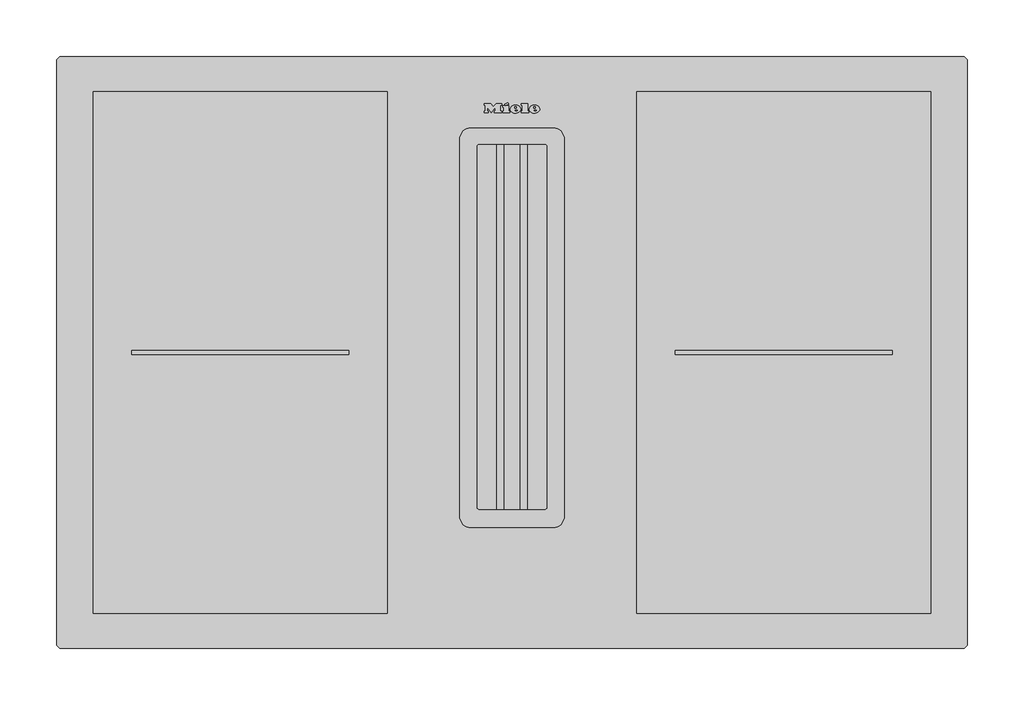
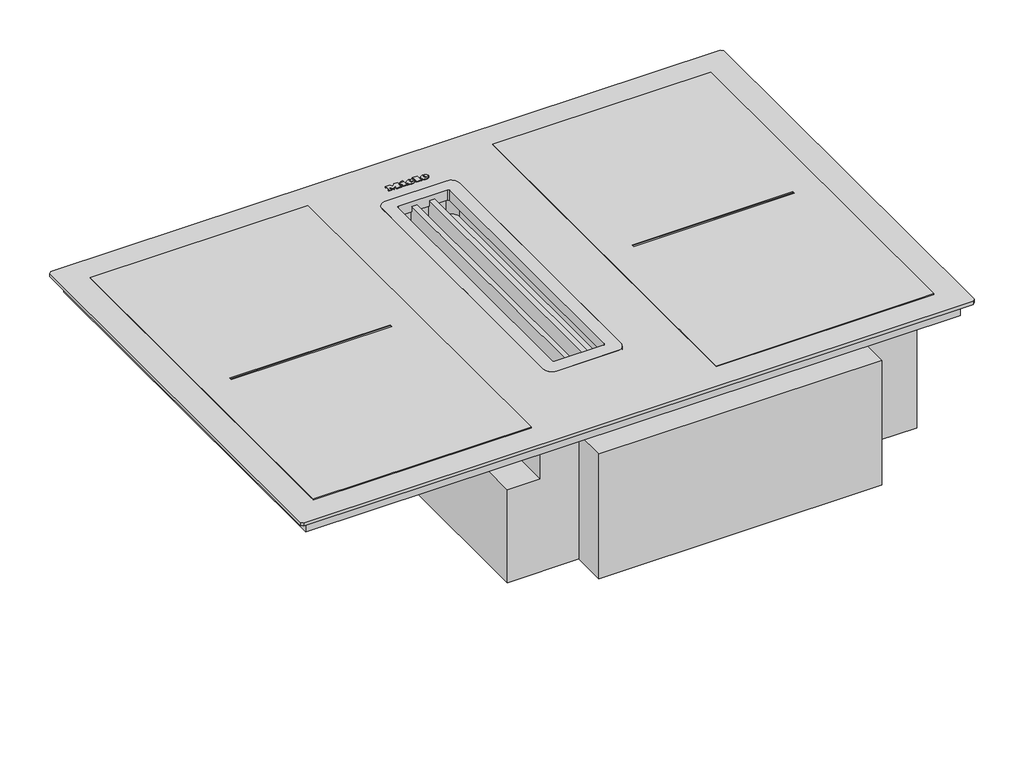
# Not in any storey: 1 proxy.
"""IFC4 building model written with IfcOpenShell, lengths in millimetres."""

import ifcopenshell
import ifcopenshell.guid

model = None  # the IFC model being written
_history = None  # IfcOwnerHistory: only IFC2X3 demands one
_inside = {}  # id of a spatial element -> (the spatial element, [elements in it])
_under = {}  # id of a project, library or spatial element -> (it, [spatial elements below it])
_declared = {}  # id of a project -> (the project, [libraries it declares])
_typed = {}  # id of a type object -> (the type object, [elements of that type])
_made_of = {}  # id of a material, layer set ... -> (it, [elements and type objects made of it])


def new_model(schema):
    """Start an empty IFC model of exactly this schema.

    Asked for "IFC4X3", IfcOpenShell would pick the latest addendum, in which some entities
    have other attributes; the version numbers below select the first issue.
    IFC2X3 requires an IfcOwnerHistory on every rooted entity: one is made here for all.
    """
    global model, _history
    if schema == "IFC4X3":
        model = ifcopenshell.file(schema_version=(4, 3, 0, 0))
    else:
        model = ifcopenshell.file(schema=schema)
    _inside.clear()
    _under.clear()
    _declared.clear()
    _typed.clear()
    _made_of.clear()
    _history = None
    if model.schema == "IFC2X3":
        org = make("IfcOrganization", Name="unknown")
        user = make(
            "IfcPersonAndOrganization",
            ThePerson=make("IfcPerson", FamilyName="unknown"),
            TheOrganization=org,
        )
        app = make(
            "IfcApplication",
            ApplicationDeveloper=org,
            Version="unknown",
            ApplicationFullName="unknown",
            ApplicationIdentifier="unknown",
        )
        _history = make(
            "IfcOwnerHistory",
            OwningUser=user,
            OwningApplication=app,
            ChangeAction="ADDED",
            CreationDate=0,
        )
    return model


def make(cls, **values):
    """One entity of the class cls with the attributes given. An attribute that is None is left unset."""
    return model.create_entity(
        cls, **{name: value for name, value in values.items() if value is not None}
    )


def rooted(cls, **values):
    """An entity with a GlobalId (a new one), such as an element, a storey or a relation."""
    return make(cls, GlobalId=ifcopenshell.guid.new(), OwnerHistory=_history, **values)


def si_unit(unit_type, name, prefix=None):
    """IfcSIUnit, for example si_unit("LENGTHUNIT", "METRE", prefix="MILLI")."""
    return make("IfcSIUnit", UnitType=unit_type, Prefix=prefix, Name=name)


def assignment(units):
    """IfcUnitAssignment: the units of a project."""
    return None if units is None else make("IfcUnitAssignment", Units=units)


def point(xyz):
    """IfcCartesianPoint."""
    return None if xyz is None else make("IfcCartesianPoint", Coordinates=xyz)


def direction(xyz):
    """IfcDirection."""
    return None if xyz is None else make("IfcDirection", DirectionRatios=xyz)


def frame(location, z_axis=None, x_axis=None):
    """IfcAxis2Placement3D, a coordinate frame: its origin and axes. An axis left out is left unset."""
    return make(
        "IfcAxis2Placement3D",
        Location=point(location),
        Axis=direction(z_axis),
        RefDirection=direction(x_axis),
    )


def frame_2d(location, x_axis=None):
    """IfcAxis2Placement2D, a coordinate frame in the plane: its origin and x axis."""
    return make(
        "IfcAxis2Placement2D", Location=point(location), RefDirection=direction(x_axis)
    )


def origin():
    """The frame at (0, 0, 0) with its axes left unset."""
    return frame((0.0, 0.0, 0.0))


def origin_with_axes():
    """The frame at (0, 0, 0) with the z axis (0, 0, 1) and the x axis (1, 0, 0) written out."""
    return frame((0.0, 0.0, 0.0), z_axis=(0.0, 0.0, 1.0), x_axis=(1.0, 0.0, 0.0))


def place(relative_to, where):
    """IfcLocalPlacement: puts the frame where relative to a parent placement (None: the world)."""
    return make(
        "IfcLocalPlacement", PlacementRelTo=relative_to, RelativePlacement=where
    )


def context(
    kind, dimensions, precision=None, world=None, true_north=None, identifier=None
):
    """IfcGeometricRepresentationContext, for example the 3D "Model" context."""
    return make(
        "IfcGeometricRepresentationContext",
        ContextIdentifier=identifier,
        ContextType=kind,
        CoordinateSpaceDimension=dimensions,
        Precision=precision,
        WorldCoordinateSystem=world,
        TrueNorth=true_north,
    )


def project(units=None, contexts=None):
    """IfcProject with its units and contexts."""
    return rooted(
        "IfcProject",
        Name="project",
        RepresentationContexts=contexts,
        UnitsInContext=assignment(units),
    )


def spatial(cls, under=None, at=None, **own):
    """A site, building, storey or space (cls), placed at a placement, below another one or the project."""
    s = rooted(cls, ObjectPlacement=at, **own)
    if under is not None:
        _under.setdefault(under.id(), (under, []))[1].append(s)
    return s


def polyline(points):
    """IfcPolyline through the points."""
    return make("IfcPolyline", Points=[point(p) for p in points])


def circle_curve(where, radius):
    """IfcCircle in the frame where."""
    return make("IfcCircle", Position=where, Radius=radius)


def ellipse_curve(where, semi_axis1, semi_axis2):
    """IfcEllipse in the frame where."""
    return make(
        "IfcEllipse", Position=where, SemiAxis1=semi_axis1, SemiAxis2=semi_axis2
    )


def trimmed(basis, trim1, trim2, sense, master):
    """IfcTrimmedCurve: the piece of a basis curve between two trims."""
    return make(
        "IfcTrimmedCurve",
        BasisCurve=basis,
        Trim1=trim1,
        Trim2=trim2,
        SenseAgreement=sense,
        MasterRepresentation=master,
    )


def segment(curve, same_sense, transition):
    """IfcCompositeCurveSegment."""
    return make(
        "IfcCompositeCurveSegment",
        Transition=transition,
        SameSense=same_sense,
        ParentCurve=curve,
    )


def composite_curve(segments, self_intersect=None):
    """IfcCompositeCurve: segments joined end to end."""
    return make("IfcCompositeCurve", Segments=segments, SelfIntersect=self_intersect)


def outline(outer, holes=None, kind="AREA"):
    """IfcArbitraryClosedProfileDef: a profile drawn as a closed curve; with holes, ...WithVoids."""
    if holes is None:
        return make("IfcArbitraryClosedProfileDef", ProfileType=kind, OuterCurve=outer)
    return make(
        "IfcArbitraryProfileDefWithVoids",
        ProfileType=kind,
        OuterCurve=outer,
        InnerCurves=holes,
    )


def extrude(swept, where, along, depth):
    """IfcExtrudedAreaSolid: the profile swept, set in the frame where, extruded along a direction by depth."""
    return make(
        "IfcExtrudedAreaSolid",
        SweptArea=swept,
        Position=where,
        ExtrudedDirection=direction(along),
        Depth=depth,
    )


def shape(context_of_items, identifier, shape_type, items):
    """IfcShapeRepresentation: the items that make up one representation, for example the "Body"."""
    return make(
        "IfcShapeRepresentation",
        ContextOfItems=context_of_items,
        RepresentationIdentifier=identifier,
        RepresentationType=shape_type,
        Items=items,
    )


def source(mapping_origin, context_of_items, identifier, shape_type, items):
    """IfcRepresentationMap: a shape defined once, which mapped items show again and again."""
    return make(
        "IfcRepresentationMap",
        MappingOrigin=mapping_origin,
        MappedRepresentation=shape(context_of_items, identifier, shape_type, items),
    )


def transform(
    local_origin,
    x_axis=None,
    y_axis=None,
    z_axis=None,
    scale=None,
    scale2=None,
    scale3=None,
    uniform=True,
):
    """IfcCartesianTransformationOperator3D, or its non-uniform kind. x_axis, y_axis, z_axis: its Axis1, 2, 3."""
    if uniform:
        return make(
            "IfcCartesianTransformationOperator3D",
            Axis1=direction(x_axis),
            Axis2=direction(y_axis),
            LocalOrigin=point(local_origin),
            Scale=scale,
            Axis3=direction(z_axis),
        )
    return make(
        "IfcCartesianTransformationOperator3DnonUniform",
        Axis1=direction(x_axis),
        Axis2=direction(y_axis),
        LocalOrigin=point(local_origin),
        Scale=scale,
        Axis3=direction(z_axis),
        Scale2=scale2,
        Scale3=scale3,
    )


def mapped(mapping_source, mapping_target):
    """IfcMappedItem: shows the shape of a source again, moved by a transform."""
    return make(
        "IfcMappedItem", MappingSource=mapping_source, MappingTarget=mapping_target
    )


def made_of(thing, what):
    """Note that an element or type object is made of a material, layer set ...; save() writes the relation."""
    if what is not None:
        _made_of.setdefault(what.id(), (what, []))[1].append(thing)
    return thing


def element(
    cls,
    number,
    at=None,
    inside=None,
    cuts=None,
    type_object=None,
    material=None,
    context=None,
    identifier="Body",
    shape_type=None,
    held_by="IfcProductDefinitionShape",
    body=None,
    shapes=None,
    **own,
):
    """One element of the class cls, such as IfcWall. Its Tag is "e" and its number.

    at: its placement. inside: the storey or other place that contains it. cuts: it is an
    opening in that element (IfcRelVoidsElement). A single representation is given by context,
    identifier, shape_type and body (its items); several are given by shapes. held_by: the class
    of the entity that holds the representations. save() writes the other relations.
    """
    e = rooted(cls, Tag="e%d" % number, ObjectPlacement=at, **own)
    if body is not None:
        shapes = [shape(context, identifier, shape_type, body)]
    if shapes is not None:
        e.Representation = make(held_by, Representations=shapes)
    if inside is not None:
        _inside.setdefault(inside.id(), (inside, []))[1].append(e)
    if cuts is not None:
        rooted(
            "IfcRelVoidsElement", RelatingBuildingElement=cuts, RelatedOpeningElement=e
        )
    if type_object is not None:
        _typed.setdefault(type_object.id(), (type_object, []))[1].append(e)
    return made_of(e, material)


def aggregate(whole, parts):
    """IfcRelAggregates: a whole, such as a stair, and the parts it consists of."""
    return rooted("IfcRelAggregates", RelatingObject=whole, RelatedObjects=parts)


def save(model, path):
    """Write the relations noted so far, then the file.

    IfcRelAggregates (storeys below a building ...), IfcRelContainedInSpatialStructure (elements
    in a storey), IfcRelDefinesByType, IfcRelAssociatesMaterial and IfcRelDeclares: one each for
    every whole, place, type object, material and project.
    """
    for whole, parts in _under.values():
        aggregate(whole, parts)
    for where, things in _inside.values():
        rooted(
            "IfcRelContainedInSpatialStructure",
            RelatedElements=things,
            RelatingStructure=where,
        )
    for kind, things in _typed.values():
        rooted("IfcRelDefinesByType", RelatedObjects=things, RelatingType=kind)
    for what, things in _made_of.values():
        rooted("IfcRelAssociatesMaterial", RelatedObjects=things, RelatingMaterial=what)
    for by, libraries in _declared.values():
        rooted("IfcRelDeclares", RelatingContext=by, RelatedDefinitions=libraries)
    model.write(path)


def plane_surface(at):
    """IfcPlane: the flat surface through the origin of the frame at, square to its z axis."""
    return make("IfcPlane", Position=at)


def cylinder_surface(at, radius):
    """IfcCylindricalSurface: all points at the distance radius from the z axis of the frame at."""
    return make("IfcCylindricalSurface", Position=at, Radius=radius)


def revolved_surface(curve, axis_point, axis_direction):
    """IfcSurfaceOfRevolution: the curve turned about the line through axis_point along axis_direction."""
    return make(
        "IfcSurfaceOfRevolution",
        SweptCurve=make("IfcArbitraryOpenProfileDef", ProfileType="CURVE", Curve=curve),
        AxisPosition=make("IfcAxis1Placement", Location=point(axis_point), Axis=direction(axis_direction)),
    )


def extruded_surface(curve, direction_of_extrusion, depth):
    """IfcSurfaceOfLinearExtrusion: the curve pushed along a direction by depth."""
    return make(
        "IfcSurfaceOfLinearExtrusion",
        SweptCurve=make("IfcArbitraryOpenProfileDef", ProfileType="CURVE", Curve=curve),
        ExtrudedDirection=direction(direction_of_extrusion),
        Depth=depth,
    )


def advanced_brep(points, edges, surfaces, faces):
    """IfcAdvancedBrep: a solid bounded by faces that lie on surfaces and meet in shared edges.

    An edge is (start, end): straight between two places in points (the first is 0);
    or (start, end, curve); or (start, end, curve, False) where it runs against its curve.
    A face is (place in surfaces, loops), or (place, loops, False) where it looks against
    its surface's normal. A loop lists edges by number (the first is 1), with a minus sign
    where the edge is run from its end to its start. The first loop is the outer one.
    """
    corners = [point(p) for p in points]
    vertices = [make("IfcVertexPoint", VertexGeometry=c) for c in corners]
    made = []
    for start, end, *more in edges:
        made.append(
            make(
                "IfcEdgeCurve",
                EdgeStart=vertices[start],
                EdgeEnd=vertices[end],
                EdgeGeometry=more[0] if more else make("IfcPolyline", Points=[corners[start], corners[end]]),
                SameSense=more[1] if len(more) > 1 else True,
            )
        )
    hull = []
    for where, loops, *sense in faces:
        bounds = []
        for j, loop in enumerate(loops):
            ring = [make("IfcOrientedEdge", EdgeElement=made[abs(k) - 1], Orientation=k > 0) for k in loop]
            bounds.append(
                make(
                    "IfcFaceOuterBound" if j == 0 else "IfcFaceBound",
                    Bound=make("IfcEdgeLoop", EdgeList=ring),
                    Orientation=True,
                )
            )
        hull.append(make("IfcAdvancedFace", Bounds=bounds, FaceSurface=surfaces[where], SameSense=sense[0] if sense else True))
    return make("IfcAdvancedBrep", Outer=make("IfcClosedShell", CfsFaces=hull))


def specialty_equipment_c7f275ff(model_context):
    return source(origin(), model_context, "Body", "SolidModel", [
        advanced_brep(
        [(19.088016, 472.896, 5.0), (19.088016, 473.704, 5.0), (24.440016, 473.704, 5.0), (15.128016, 473.704, 5.0), (17.328016, 471.0, 5.0), (24.304016, 472.896, 5.0), (21.888016, 472.896, 5.0), (19.984016, 472.0, 5.0), (19.088016, 474.728, 5.0), (19.088016, 475.6, 5.0), (20.456016, 475.6, 5.0), (20.456016, 474.728, 5.0), (19.088016, 472.896, 4.0), (19.984016, 472.0, 4.0), (21.888016, 472.896, 4.0), (24.304016, 472.896, 4.0), (17.328016, 471.0, 4.0), (15.128016, 473.704, 4.0), (24.440016, 473.704, 4.0), (19.088016, 473.704, 4.0), (19.088016, 474.728, 4.0), (20.456016, 474.728, 4.0), (20.456016, 475.6, 4.0), (19.088016, 475.6, 4.0)],
        [
            (0, 1),
            (1, 2),
            (2, 3, ellipse_curve(frame((19.784016, 473.704, 5.0), z_axis=(0.0, 0.0, 1.0), x_axis=(-1.0, 0.0, 0.0)), 4.656, 3.848)),
            (3, 4, circle_curve(frame((18.2240596, 473.976, 5.0), z_axis=(0.0, 0.0, 1.0), x_axis=(0.0, -1.0, 0.0)), 3.1079688)),
            (4, 5, circle_curve(frame((19.6908096, 476.088, 5.0), z_axis=(0.0, 0.0, 1.0), x_axis=(0.0, -1.0, 0.0)), 5.6098607)),
            (5, 6),
            (6, 7, circle_curve(frame((20.3750748, 473.64, 5.0), z_axis=(0.0, 0.0, -1.0), x_axis=(0.0, -1.0, 0.0)), 1.6859795)),
            (7, 0, circle_curve(frame((19.984016, 472.896, 5.0), z_axis=(0.0, 0.0, -1.0), x_axis=(0.0, -1.0, 0.0)), 0.896)),
            (8, 9),
            (9, 10, circle_curve(frame((19.772016, 475.6, 5.0), z_axis=(0.0, 0.0, -1.0), x_axis=(0.0, -1.0, 0.0)), 0.684)),
            (10, 11),
            (11, 8),
            (12, 13, circle_curve(frame((19.984016, 472.896, 4.0), z_axis=(0.0, 0.0, 1.0), x_axis=(0.0, -1.0, 0.0)), 0.896)),
            (13, 14, circle_curve(frame((20.3750748, 473.64, 4.0), z_axis=(0.0, 0.0, 1.0), x_axis=(0.0, -1.0, 0.0)), 1.6859795)),
            (14, 15),
            (15, 16, circle_curve(frame((19.6908096, 476.088, 4.0), z_axis=(0.0, 0.0, -1.0), x_axis=(0.0, -1.0, 0.0)), 5.6098607)),
            (16, 17, circle_curve(frame((18.2240596, 473.976, 4.0), z_axis=(0.0, 0.0, -1.0), x_axis=(0.0, -1.0, 0.0)), 3.1079688)),
            (17, 18, ellipse_curve(frame((19.784016, 473.704, 4.0), z_axis=(0.0, 0.0, -1.0), x_axis=(-1.0, 0.0, 0.0)), 4.656, 3.848)),
            (18, 19),
            (19, 12),
            (20, 21),
            (21, 22),
            (22, 23, circle_curve(frame((19.772016, 475.6, 4.0), z_axis=(0.0, 0.0, 1.0), x_axis=(0.0, -1.0, 0.0)), 0.684)),
            (23, 20),
            (0, 12),
            (19, 1),
            (18, 2),
            (5, 15),
            (14, 6),
            (17, 3),
            (13, 7),
            (16, 4),
            (8, 20),
            (23, 9),
            (22, 10),
            (21, 11),
        ],
        [
            plane_surface(frame((19.088016, 473.704, 5.0), z_axis=(0.0, 0.0, 1.0), x_axis=(0.0, 1.0, 0.0))),
            plane_surface(frame((19.088016, 473.704, 4.0), z_axis=(0.0, 0.0, -1.0), x_axis=(0.0, -1.0, 0.0))),
            plane_surface(frame((19.088016, 472.896, 5.0), z_axis=(1.0, 0.0, 0.0), x_axis=(0.0, 0.0, -1.0))),
            plane_surface(frame((19.088016, 473.704, 5.0), z_axis=(0.0, -1.0, 0.0), x_axis=(0.0, 0.0, -1.0))),
            plane_surface(frame((24.304016, 472.896, 5.0), z_axis=(0.0, 1.0, 0.0), x_axis=(0.0, 0.0, -1.0))),
            extruded_surface(trimmed(ellipse_curve(frame((19.784016, 473.704, 3.0), z_axis=(0.0, 0.0, 1.0), x_axis=(-1.0, 0.0, 0.0)), 4.656, 3.848), [point((24.440016, 473.704, 3.0))], [point((15.128016, 473.704, 3.0))], True, "CARTESIAN"), (0.0, 0.0, 1.0), 1.0),
            revolved_surface(polyline([(20.3750748, 471.9540205, 4.0), (20.3750748, 471.9540205, 5.0)]), (20.3750748, 473.64, 4.0), (0.0, 0.0, -1.0)),
            revolved_surface(polyline([(19.984016, 472.0, 4.0), (19.984016, 472.0, 5.0)]), (19.984016, 472.896, 4.0), (0.0, 0.0, -1.0)),
            cylinder_surface(frame((18.2240596, 473.976, 4.0), z_axis=(0.0, 0.0, 1.0), x_axis=(0.0, -1.0, 0.0)), 3.1079688),
            cylinder_surface(frame((19.6908096, 476.088, 4.0), z_axis=(0.0, 0.0, 1.0), x_axis=(0.0, -1.0, 0.0)), 5.6098607),
            plane_surface(frame((19.088016, 474.728, 5.0), z_axis=(1.0, 0.0, 0.0), x_axis=(0.0, 0.0, -1.0))),
            revolved_surface(polyline([(19.772016, 474.916, 4.0), (19.772016, 474.916, 5.0)]), (19.772016, 475.6, 4.0), (0.0, 0.0, -1.0)),
            plane_surface(frame((20.456016, 475.6, 5.0), z_axis=(-1.0, 0.0, 0.0), x_axis=(0.0, 0.0, -1.0))),
            plane_surface(frame((20.456016, 474.728, 5.0), z_axis=(0.0, 1.0, 0.0), x_axis=(0.0, 0.0, -1.0))),
        ],
        [
            (0, [[1, 2, 3, 4, 5, 6, 7, 8], [9, 10, 11, 12]]),
            (1, [[13, 14, 15, 16, 17, 18, 19, 20], [21, 22, 23, 24]]),
            (2, [[-1, 25, -20, 26]]),
            (3, [[-2, -26, -19, 27]]),
            (4, [[-6, 28, -15, 29]]),
            (5, [[-3, -27, -18, 30]]),
            (6, [[-7, -29, -14, 31]]),
            (7, [[-8, -31, -13, -25]]),
            (8, [[-4, -30, -17, 32]]),
            (9, [[-5, -32, -16, -28]]),
            (10, [[-9, 33, -24, 34]]),
            (11, [[-10, -34, -23, 35]]),
            (12, [[-11, -35, -22, 36]]),
            (13, [[-12, -36, -21, -33]]),
        ],
    ),
        advanced_brep(
        [(2.392016, 472.896, 5.0), (2.392016, 473.704, 5.0), (7.744016, 473.704, 5.0), (-1.567984, 473.704, 5.0), (0.632016, 471.0, 5.0), (7.608016, 472.896, 5.0), (5.192016, 472.896, 5.0), (3.288016, 472.0, 5.0), (2.392016, 474.728, 5.0), (2.392016, 475.6, 5.0), (3.760016, 475.6, 5.0), (3.760016, 474.728, 5.0), (2.392016, 472.896, 4.0), (3.288016, 472.0, 4.0), (5.192016, 472.896, 4.0), (7.608016, 472.896, 4.0), (0.632016, 471.0, 4.0), (-1.567984, 473.704, 4.0), (7.744016, 473.704, 4.0), (2.392016, 473.704, 4.0), (2.392016, 474.728, 4.0), (3.760016, 474.728, 4.0), (3.760016, 475.6, 4.0), (2.392016, 475.6, 4.0)],
        [
            (0, 1),
            (1, 2),
            (2, 3, ellipse_curve(frame((3.088016, 473.704, 5.0), z_axis=(0.0, 0.0, 1.0), x_axis=(-1.0, 0.0, 0.0)), 4.656, 3.848)),
            (3, 4, circle_curve(frame((1.5280596, 473.976, 5.0), z_axis=(0.0, 0.0, 1.0), x_axis=(0.0, -1.0, 0.0)), 3.1079688)),
            (4, 5, circle_curve(frame((2.9948096, 476.088, 5.0), z_axis=(0.0, 0.0, 1.0), x_axis=(0.0, -1.0, 0.0)), 5.6098607)),
            (5, 6),
            (6, 7, circle_curve(frame((3.6790748, 473.64, 5.0), z_axis=(0.0, 0.0, -1.0), x_axis=(0.0, -1.0, 0.0)), 1.6859795)),
            (7, 0, circle_curve(frame((3.288016, 472.896, 5.0), z_axis=(0.0, 0.0, -1.0), x_axis=(0.0, -1.0, 0.0)), 0.896)),
            (8, 9),
            (9, 10, circle_curve(frame((3.076016, 475.6, 5.0), z_axis=(0.0, 0.0, -1.0), x_axis=(0.0, -1.0, 0.0)), 0.684)),
            (10, 11),
            (11, 8),
            (12, 13, circle_curve(frame((3.288016, 472.896, 4.0), z_axis=(0.0, 0.0, 1.0), x_axis=(0.0, -1.0, 0.0)), 0.896)),
            (13, 14, circle_curve(frame((3.6790748, 473.64, 4.0), z_axis=(0.0, 0.0, 1.0), x_axis=(0.0, -1.0, 0.0)), 1.6859795)),
            (14, 15),
            (15, 16, circle_curve(frame((2.9948096, 476.088, 4.0), z_axis=(0.0, 0.0, -1.0), x_axis=(0.0, -1.0, 0.0)), 5.6098607)),
            (16, 17, circle_curve(frame((1.5280596, 473.976, 4.0), z_axis=(0.0, 0.0, -1.0), x_axis=(0.0, -1.0, 0.0)), 3.1079688)),
            (17, 18, ellipse_curve(frame((3.088016, 473.704, 4.0), z_axis=(0.0, 0.0, -1.0), x_axis=(-1.0, 0.0, 0.0)), 4.656, 3.848)),
            (18, 19),
            (19, 12),
            (20, 21),
            (21, 22),
            (22, 23, circle_curve(frame((3.076016, 475.6, 4.0), z_axis=(0.0, 0.0, 1.0), x_axis=(0.0, -1.0, 0.0)), 0.684)),
            (23, 20),
            (0, 12),
            (19, 1),
            (18, 2),
            (5, 15),
            (14, 6),
            (17, 3),
            (13, 7),
            (16, 4),
            (8, 20),
            (23, 9),
            (22, 10),
            (21, 11),
        ],
        [
            plane_surface(frame((2.392016, 473.704, 5.0), z_axis=(0.0, 0.0, 1.0), x_axis=(0.0, 1.0, 0.0))),
            plane_surface(frame((2.392016, 473.704, 4.0), z_axis=(0.0, 0.0, -1.0), x_axis=(0.0, -1.0, 0.0))),
            plane_surface(frame((2.392016, 472.896, 5.0), z_axis=(1.0, 0.0, 0.0), x_axis=(0.0, 0.0, -1.0))),
            plane_surface(frame((2.392016, 473.704, 5.0), z_axis=(0.0, -1.0, 0.0), x_axis=(0.0, 0.0, -1.0))),
            plane_surface(frame((7.608016, 472.896, 5.0), z_axis=(0.0, 1.0, 0.0), x_axis=(0.0, 0.0, -1.0))),
            extruded_surface(trimmed(ellipse_curve(frame((3.088016, 473.704, 3.0), z_axis=(0.0, 0.0, 1.0), x_axis=(-1.0, 0.0, 0.0)), 4.656, 3.848), [point((7.744016, 473.704, 3.0))], [point((-1.567984, 473.704, 3.0))], True, "CARTESIAN"), (0.0, 0.0, 1.0), 1.0),
            revolved_surface(polyline([(3.6790748, 471.9540205, 4.0), (3.6790748, 471.9540205, 5.0)]), (3.6790748, 473.64, 4.0), (0.0, 0.0, -1.0)),
            revolved_surface(polyline([(3.288016, 472.0, 4.0), (3.288016, 472.0, 5.0)]), (3.288016, 472.896, 4.0), (0.0, 0.0, -1.0)),
            cylinder_surface(frame((1.5280596, 473.976, 4.0), z_axis=(0.0, 0.0, 1.0), x_axis=(0.0, -1.0, 0.0)), 3.1079688),
            cylinder_surface(frame((2.9948096, 476.088, 4.0), z_axis=(0.0, 0.0, 1.0), x_axis=(0.0, -1.0, 0.0)), 5.6098607),
            plane_surface(frame((2.392016, 474.728, 5.0), z_axis=(1.0, 0.0, 0.0), x_axis=(0.0, 0.0, -1.0))),
            revolved_surface(polyline([(3.076016, 474.916, 4.0), (3.076016, 474.916, 5.0)]), (3.076016, 475.6, 4.0), (0.0, 0.0, -1.0)),
            plane_surface(frame((3.760016, 475.6, 5.0), z_axis=(-1.0, 0.0, 0.0), x_axis=(0.0, 0.0, -1.0))),
            plane_surface(frame((3.760016, 474.728, 5.0), z_axis=(0.0, 1.0, 0.0), x_axis=(0.0, 0.0, -1.0))),
        ],
        [
            (0, [[1, 2, 3, 4, 5, 6, 7, 8], [9, 10, 11, 12]]),
            (1, [[13, 14, 15, 16, 17, 18, 19, 20], [21, 22, 23, 24]]),
            (2, [[-1, 25, -20, 26]]),
            (3, [[-2, -26, -19, 27]]),
            (4, [[-6, 28, -15, 29]]),
            (5, [[-3, -27, -18, 30]]),
            (6, [[-7, -29, -14, 31]]),
            (7, [[-8, -31, -13, -25]]),
            (8, [[-4, -30, -17, 32]]),
            (9, [[-5, -32, -16, -28]]),
            (10, [[-9, 33, -24, 34]]),
            (11, [[-10, -34, -23, 35]]),
            (12, [[-11, -35, -22, 36]]),
            (13, [[-12, -36, -21, -33]]),
        ],
    ),
        extrude(outline(polyline([(-6.351984, 478.528), (-3.631984, 479.792), (-3.031984, 478.496), (-5.743984, 477.232), (-6.351984, 478.528)])), frame((0.0, 0.0, 4.0), z_axis=(0.0, 0.0, 1.0), x_axis=(1.0, 0.0, 0.0)), (0.0, 0.0, 1.0), 1.0),
        extrude(outline(polyline([(-8.327984, 477.056), (-2.943984, 477.056), (-2.943984, 472.344), (-2.015984, 472.344), (-2.015984, 471.0), (-8.327984, 471.0), (-8.327984, 472.344), (-7.375984, 472.344), (-7.375984, 475.624), (-8.327984, 475.624), (-8.327984, 477.056)])), frame((0.0, 0.0, 4.0), z_axis=(0.0, 0.0, 1.0), x_axis=(1.0, 0.0, 0.0)), (0.0, 0.0, 1.0), 1.0),
        extrude(outline(polyline([(8.192016, 477.696), (8.192016, 479.0), (13.696016, 479.0), (13.696016, 472.344), (14.680016, 472.344), (14.680016, 471.0), (8.192016, 471.0), (8.192016, 472.344), (9.152016, 472.344), (9.152016, 477.696), (8.192016, 477.696)])), frame((0.0, 0.0, 4.0), z_axis=(0.0, 0.0, 1.0), x_axis=(1.0, 0.0, 0.0)), (0.0, 0.0, 1.0), 1.0),
        extrude(outline(polyline([(-24.271984, 477.696), (-24.271984, 479.0), (-18.695984, 479.0), (-16.351984, 476.0), (-14.015984, 479.0), (-9.143984, 479.0), (-9.143984, 477.696), (-10.159984, 477.696), (-10.159984, 472.344), (-9.143984, 472.344), (-9.143984, 471.0), (-15.527984, 471.0), (-15.527984, 472.344), (-14.543984, 472.344), (-14.543984, 475.8152223), (-18.135984, 471.0), (-21.711984, 475.7471247), (-21.711984, 472.344), (-20.751984, 472.344), (-20.751984, 471.0), (-24.271984, 471.0), (-24.271984, 472.344), (-23.303984, 472.344), (-23.303984, 477.696), (-24.271984, 477.696)])), frame((0.0, 0.0, 4.0), z_axis=(0.0, 0.0, 1.0), x_axis=(1.0, 0.0, 0.0)), (0.0, 0.0, 1.0), 1.0),
        extrude(outline(polyline([(-109.7799963, 489.4478004), (-109.7799963, 30.4999887), (-368.2201181, 30.4999887), (-368.2201181, 489.4478004), (-109.7799963, 489.4478004)]), holes=[polyline([(-143.6799963, 261.5278004), (-334.3201181, 261.5278004), (-334.3201181, 258.3678004), (-143.6799963, 258.3678004), (-143.6799963, 261.5278004)])]), frame((0.0, 0.0, 4.0), z_axis=(0.0, 0.0, 1.0), x_axis=(1.0, 0.0, 0.0)), (0.0, 0.0, 1.0), 1.0),
        extrude(outline(polyline([(109.7799963, 489.4478004), (368.2201181, 489.4478004), (368.2201181, 30.4999887), (109.7799963, 30.4999887), (109.7799963, 489.4478004)]), holes=[polyline([(143.6799963, 261.5278004), (143.6799963, 258.3678004), (334.3201181, 258.3678004), (334.3201181, 261.5278004), (143.6799963, 261.5278004)])]), frame((0.0, 0.0, 4.0), z_axis=(0.0, 0.0, 1.0), x_axis=(1.0, 0.0, 0.0)), (0.0, 0.0, 1.0), 1.0),
        extrude(outline(composite_curve([segment(polyline([(-45.9999987, 115.9999992), (-45.9999987, 447.4999992)]), True, "CONTINUOUS"), segment(trimmed(circle_curve(frame_2d((-35.9999987, 447.4999992)), 10.0), [point((-45.9999987, 447.4999992))], [point((-35.9999987, 457.4999992))], False, "CARTESIAN"), True, "CONTINUOUS"), segment(polyline([(-35.9999987, 457.4999992), (35.9999987, 457.4999992)]), True, "CONTINUOUS"), segment(trimmed(circle_curve(frame_2d((35.9999987, 447.4999992)), 10.0), [point((35.9999987, 457.4999992))], [point((45.9999987, 447.4999992))], False, "CARTESIAN"), True, "CONTINUOUS"), segment(polyline([(45.9999987, 447.4999992), (45.9999987, 115.9999992)]), True, "CONTINUOUS"), segment(trimmed(circle_curve(frame_2d((35.9999987, 115.9999992)), 10.0), [point((45.9999987, 115.9999992))], [point((35.9999987, 105.9999992))], False, "CARTESIAN"), True, "CONTINUOUS"), segment(polyline([(35.9999987, 105.9999992), (-35.9999987, 105.9999992)]), True, "CONTINUOUS"), segment(trimmed(circle_curve(frame_2d((-35.9999987, 115.9999992)), 10.0), [point((-35.9999987, 105.9999992))], [point((-45.9999987, 115.9999992))], False, "CARTESIAN"), True, "CONTINUOUS")], self_intersect=False), holes=[composite_curve([segment(trimmed(circle_curve(frame_2d((-28.688139, 124.1576538)), 2.0), [point((-30.688139, 124.1576538))], [point((-28.688139, 122.1576538))], True, "CARTESIAN"), True, "CONTINUOUS"), segment(polyline([(-28.688139, 122.1576538), (28.688139, 122.1576538)]), True, "CONTINUOUS"), segment(trimmed(circle_curve(frame_2d((28.688139, 124.1576538)), 2.0), [point((28.688139, 122.1576538))], [point((30.688139, 124.1576538))], True, "CARTESIAN"), True, "CONTINUOUS"), segment(polyline([(30.688139, 124.1576538), (30.688139, 440.9186707)]), True, "CONTINUOUS"), segment(trimmed(circle_curve(frame_2d((28.688139, 440.9186707)), 2.0), [point((30.688139, 440.9186707))], [point((28.688139, 442.9186707))], True, "CARTESIAN"), True, "CONTINUOUS"), segment(polyline([(28.688139, 442.9186707), (-28.688139, 442.9186707)]), True, "CONTINUOUS"), segment(trimmed(circle_curve(frame_2d((-28.688139, 440.9186707)), 2.0), [point((-28.688139, 442.9186707))], [point((-30.688139, 440.9186707))], True, "CARTESIAN"), True, "CONTINUOUS"), segment(polyline([(-30.688139, 440.9186707), (-30.688139, 124.1576538)]), True, "CONTINUOUS")], self_intersect=False)]), frame((0.0, 0.0, -8.5215403), z_axis=(0.0, 0.0, 1.0), x_axis=(1.0, 0.0, 0.0)), (0.0, 0.0, 1.0), 12.5215403),
        extrude(outline(polyline([(-343.1216701, 96.3863349), (-343.1216701, 495.0), (-75.402586, 495.0), (-75.402586, 96.3863349), (-343.1216701, 96.3863349)])), frame((0.0, 0.0, -46.5), z_axis=(0.0, 0.0, 1.0), x_axis=(1.0, 0.0, 0.0)), (0.0, 0.0, 1.0), 28.6958097),
        extrude(outline(polyline([(336.1107845, 495.0), (336.1107845, 96.3863349), (104.0, 96.3863349), (104.0, 495.0), (336.1107845, 495.0)])), frame((0.0, 0.0, -46.5), z_axis=(0.0, 0.0, 1.0), x_axis=(1.0, 0.0, 0.0)), (0.0, 0.0, 1.0), 28.6958097),
        extrude(outline(polyline([(388.5, 508.4999986), (388.5, 11.4999971), (-388.5, 11.4999971), (-388.5, 508.4999986), (388.5, 508.4999986)]), holes=[composite_curve([segment(polyline([(45.9999987, 115.9999979), (45.9999987, 447.4999992)]), True, "CONTINUOUS"), segment(trimmed(circle_curve(frame_2d((35.9999987, 447.4999992)), 10.0), [point((45.9999987, 447.4999992))], [point((35.9999987, 457.4999992))], True, "CARTESIAN"), True, "CONTINUOUS"), segment(polyline([(35.9999987, 457.4999992), (-35.9999987, 457.4999992)]), True, "CONTINUOUS"), segment(trimmed(circle_curve(frame_2d((-35.9999987, 447.4999992)), 10.0), [point((-35.9999987, 457.4999992))], [point((-45.9999987, 447.4999992))], True, "CARTESIAN"), True, "CONTINUOUS"), segment(polyline([(-45.9999987, 447.4999992), (-45.9999987, 115.9999979)]), True, "CONTINUOUS"), segment(trimmed(circle_curve(frame_2d((-36.0, 115.9999979)), 9.9999987), [point((-45.9999987, 115.9999979))], [point((-36.0, 105.9999992))], True, "CARTESIAN"), True, "CONTINUOUS"), segment(polyline([(-36.0, 105.9999992), (36.0, 105.9999992)]), True, "CONTINUOUS"), segment(trimmed(circle_curve(frame_2d((36.0, 115.9999979)), 9.9999987), [point((36.0, 105.9999992))], [point((45.9999987, 115.9999979))], True, "CARTESIAN"), True, "CONTINUOUS")], self_intersect=False)]), frame((0.0, 0.0, -17.8041903), z_axis=(0.0, 0.0, 1.0), x_axis=(1.0, 0.0, 0.0)), (0.0, 0.0, 1.0), 17.8041903),
        extrude(outline(polyline([(397.5, 520.0), (400.0, 517.5), (400.0, 2.5), (397.5, 0.0), (-397.5, 0.0), (-400.0, 2.5), (-400.0, 517.5), (-397.5, 520.0), (397.5, 520.0)]), holes=[composite_curve([segment(polyline([(35.9999987, 457.4999992), (-35.9999987, 457.4999992)]), True, "CONTINUOUS"), segment(trimmed(circle_curve(frame_2d((-35.9999987, 447.4999992)), 10.0), [point((-35.9999987, 457.4999992))], [point((-45.9999987, 447.4999992))], True, "CARTESIAN"), True, "CONTINUOUS"), segment(polyline([(-45.9999987, 447.4999992), (-45.9999987, 115.9999979)]), True, "CONTINUOUS"), segment(trimmed(circle_curve(frame_2d((-36.0, 115.9999979)), 9.9999987), [point((-45.9999987, 115.9999979))], [point((-36.0, 105.9999992))], True, "CARTESIAN"), True, "CONTINUOUS"), segment(polyline([(-36.0, 105.9999992), (36.0, 105.9999992)]), True, "CONTINUOUS"), segment(trimmed(circle_curve(frame_2d((36.0, 115.9999979)), 9.9999987), [point((36.0, 105.9999992))], [point((45.9999987, 115.9999979))], True, "CARTESIAN"), True, "CONTINUOUS"), segment(polyline([(45.9999987, 115.9999979), (45.9999987, 447.4999992)]), True, "CONTINUOUS"), segment(trimmed(circle_curve(frame_2d((35.9999987, 447.4999992)), 10.0), [point((45.9999987, 447.4999992))], [point((35.9999987, 457.4999992))], True, "CARTESIAN"), True, "CONTINUOUS")], self_intersect=False)]), origin_with_axes(), (0.0, 0.0, 1.0), 4.0),
        extrude(outline(composite_curve([segment(trimmed(circle_curve(frame_2d((-148.0, 170.0)), 78.9393921), [point((-148.0, 91.0606079))], [point((-148.0, 248.9393921))], False, "CARTESIAN"), True, "CONTINUOUS"), segment(trimmed(circle_curve(frame_2d((-148.0, 170.0)), 78.9393921), [point((-148.0, 248.9393921))], [point((-148.0, 91.0606079))], False, "CARTESIAN"), True, "CONTINUOUS")], self_intersect=False), holes=[composite_curve([segment(trimmed(circle_curve(frame_2d((-148.0, 170.0)), 77.9393921), [point((-148.0, 92.0606079))], [point((-148.0, 247.9393921))], True, "CARTESIAN"), True, "CONTINUOUS"), segment(trimmed(circle_curve(frame_2d((-148.0, 170.0)), 77.9393921), [point((-148.0, 247.9393921))], [point((-148.0, 92.0606079))], True, "CARTESIAN"), True, "CONTINUOUS")], self_intersect=False)]), frame((0.0, 426.3304607, 0.0), z_axis=(0.0, 1.0, 0.0), x_axis=(0.0, 0.0, 1.0)), (0.0, 0.0, 1.0), 17.9123918),
        extrude(outline(polyline([(-13.6048155, 120.1989746), (-13.6048155, 443.7301863), (-7.3951845, 443.7301863), (-7.3951845, 120.1989746), (-13.6048155, 120.1989746)])), frame((0.0, 0.0, -26.3132825), z_axis=(0.0, 0.0, 1.0), x_axis=(1.0, 0.0, 0.0)), (0.0, 0.0, 1.0), 24.7104098),
        extrude(outline(polyline([(13.6048155, 120.1989746), (7.3951845, 120.1989746), (7.3951845, 443.7301863), (13.6048155, 443.7301863), (13.6048155, 120.1989746)])), frame((0.0, 0.0, -26.3132825), z_axis=(0.0, 0.0, 1.0), x_axis=(1.0, 0.0, 0.0)), (0.0, 0.0, 1.0), 24.7104098),
        advanced_brep(
        [(53.6506051, 96.5541828, -54.0), (52.4705494, 96.5541828, -54.0), (52.4705494, 96.5541828, -17.8041903), (-52.4705494, 96.5541828, -17.8041903), (-52.4705494, 96.5541828, -54.0), (-60.8014535, 96.5541828, -54.0), (-60.8014535, 96.5541828, -117.5), (-100.1207428, 96.5541828, -117.5), (-100.1207428, 96.5541828, -234.0), (-15.0, 96.5541828, -234.0), (-15.0, 96.5541828, -77.5), (53.6506051, 96.5541828, -77.5), (-100.1207428, 495.5, -234.0), (-100.1207428, 495.5, -117.5), (-60.8014535, 495.5, -117.5), (-60.8014535, 495.5, -54.0), (-52.4705494, 495.5, -54.0), (-52.4705494, 495.5, -17.8041903), (52.4705494, 495.5, -17.8041903), (52.4705494, 495.5, -54.0), (53.6506051, 495.5, -54.0), (53.6506051, 495.5, -234.0), (53.6506051, 101.0, -77.5), (53.6506051, 101.0, -56.9972547), (53.6506051, 426.3304607, -56.9972547), (53.6506051, 426.3304607, -234.0), (45.9999987, 447.4999992, -17.8041903), (45.9999987, 115.9999979, -17.8041903), (36.0, 105.9999992, -17.8041903), (-36.0, 105.9999992, -17.8041903), (-45.9999987, 115.9999979, -17.8041903), (-45.9999987, 447.4999992, -17.8041903), (-35.9999987, 457.4999992, -17.8041903), (35.9999987, 457.4999992, -17.8041903), (388.5, 101.0, -56.9972547), (321.1107845, 101.0, -77.5), (321.1107845, 101.0, -213.2731462), (388.5, 101.0, -213.2731462), (388.5, 426.3304607, -56.9972547), (388.5, 426.3304607, -213.2731462), (342.3970703, 426.3304607, -213.2731462), (342.3970703, 426.3304607, -234.0), (342.3970703, 388.6357055, -234.0), (380.8010657, 352.3414513, -234.0), (380.8010657, 214.7386902, -234.0), (267.9814513, 109.112153, -234.0), (321.1107845, 109.112153, -234.0), (321.1107845, 55.7496808, -234.0), (-15.0, 55.7496808, -234.0), (380.8010657, 214.7386902, -213.2731462), (380.8010657, 352.3414513, -213.2731462), (342.3970703, 388.6357055, -213.2731462), (321.1107845, 109.112153, -213.2731462), (267.9814513, 109.112153, -213.2731462), (45.9999987, 115.9999979, -38.2608409), (45.9999987, 447.4999992, -38.2608409), (35.9999987, 457.4999992, -38.2608409), (-35.9999987, 457.4999992, -38.2608409), (-45.9999987, 447.4999992, -38.2608409), (-45.9999987, 115.9999979, -38.2608409), (-36.0, 105.9999992, -38.2608409), (36.0, 105.9999992, -38.2608409), (-15.0, 55.7496808, -77.5), (321.1107845, 55.7496808, -77.5)],
        [
            (0, 1),
            (1, 2),
            (2, 3),
            (3, 4),
            (4, 5),
            (5, 6),
            (6, 7),
            (7, 8),
            (8, 9),
            (9, 10),
            (10, 11),
            (11, 0),
            (12, 13),
            (13, 14),
            (14, 15),
            (15, 16),
            (16, 17),
            (17, 18),
            (18, 19),
            (19, 20),
            (20, 21),
            (21, 12),
            (20, 0),
            (11, 22),
            (22, 23),
            (23, 24),
            (24, 25),
            (25, 21),
            (19, 1),
            (18, 2),
            (17, 3),
            (26, 27),
            (27, 28, circle_curve(frame((36.0, 115.9999979, -17.8041903), z_axis=(0.0, 0.0, -1.0), x_axis=(1.0, 0.0, 0.0)), 9.9999987)),
            (28, 29),
            (29, 30, circle_curve(frame((-36.0, 115.9999979, -17.8041903), z_axis=(0.0, 0.0, -1.0), x_axis=(1.0, 0.0, 0.0)), 9.9999987)),
            (30, 31),
            (31, 32, circle_curve(frame((-35.9999987, 447.4999992, -17.8041903), z_axis=(0.0, 0.0, -1.0), x_axis=(1.0, 0.0, 0.0)), 10.0)),
            (32, 33),
            (33, 26, circle_curve(frame((35.9999987, 447.4999992, -17.8041903), z_axis=(0.0, 0.0, -1.0), x_axis=(1.0, 0.0, 0.0)), 10.0)),
            (16, 4),
            (15, 5),
            (14, 6),
            (13, 7),
            (12, 8),
            (34, 23),
            (22, 35),
            (35, 36),
            (36, 37),
            (37, 34),
            (24, 38),
            (38, 39),
            (39, 40),
            (40, 41),
            (41, 25),
            (38, 34),
            (37, 39),
            (41, 42),
            (42, 43, circle_curve(frame((322.8680046, 329.506125, -234.0), z_axis=(0.0, 0.0, -1.0), x_axis=(1.0, 0.0, 0.0)), 62.2711145)),
            (43, 44),
            (44, 45, circle_curve(frame((212.1419224, 281.8188418, -234.0), z_axis=(0.0, 0.0, -1.0), x_axis=(1.0, 0.0, 0.0)), 181.5093753)),
            (45, 46),
            (46, 47),
            (47, 48),
            (48, 9),
            (49, 50),
            (50, 51, circle_curve(frame((322.8680046, 329.506125, -213.2731462), z_axis=(0.0, 0.0, 1.0), x_axis=(1.0, 0.0, 0.0)), 62.2711145)),
            (51, 40),
            (36, 52),
            (52, 53),
            (53, 49, circle_curve(frame((212.1419224, 281.8188418, -213.2731462), z_axis=(0.0, 0.0, 1.0), x_axis=(1.0, 0.0, 0.0)), 181.5093753)),
            (49, 44),
            (43, 50),
            (53, 45),
            (51, 42),
            (54, 55),
            (55, 56, circle_curve(frame((35.9999987, 447.4999992, -38.2608409), z_axis=(0.0, 0.0, 1.0), x_axis=(1.0, 0.0, 0.0)), 10.0)),
            (56, 57),
            (57, 58, circle_curve(frame((-35.9999987, 447.4999992, -38.2608409), z_axis=(0.0, 0.0, 1.0), x_axis=(1.0, 0.0, 0.0)), 10.0)),
            (58, 59),
            (59, 60, circle_curve(frame((-36.0, 115.9999979, -38.2608409), z_axis=(0.0, 0.0, 1.0), x_axis=(1.0, 0.0, 0.0)), 9.9999987)),
            (60, 61),
            (61, 54, circle_curve(frame((36.0, 115.9999979, -38.2608409), z_axis=(0.0, 0.0, 1.0), x_axis=(1.0, 0.0, 0.0)), 9.9999987)),
            (54, 27),
            (26, 55),
            (33, 56),
            (32, 57),
            (31, 58),
            (30, 59),
            (29, 60),
            (28, 61),
            (62, 48),
            (47, 63),
            (63, 62),
            (52, 46),
            (62, 10),
            (35, 63),
        ],
        [
            plane_surface(frame((380.8010657, 96.5541828, -234.0), z_axis=(0.0, -1.0, 0.0), x_axis=(1.0, 0.0, 0.0))),
            plane_surface(frame((380.8010657, 495.5, -234.0), z_axis=(0.0, 1.0, 0.0), x_axis=(-1.0, 0.0, 0.0))),
            plane_surface(frame((53.6506051, 96.5541828, -234.0), z_axis=(1.0, 0.0, 0.0), x_axis=(0.0, 1.0, 0.0))),
            plane_surface(frame((53.6506051, 96.5541828, -54.0), z_axis=(0.0, 0.0, 1.0), x_axis=(0.0, 1.0, 0.0))),
            plane_surface(frame((52.4705494, 96.5541828, -54.0), z_axis=(1.0, 0.0, 0.0), x_axis=(0.0, 1.0, 0.0))),
            plane_surface(frame((52.4705494, 96.5541828, -17.8041903), z_axis=(0.0, 0.0, 1.0), x_axis=(0.0, 1.0, 0.0))),
            plane_surface(frame((-52.4705494, 96.5541828, -17.8041903), z_axis=(-1.0, 0.0, 0.0), x_axis=(0.0, 1.0, 0.0))),
            plane_surface(frame((-52.4705494, 96.5541828, -54.0), z_axis=(0.0, 0.0, 1.0), x_axis=(0.0, 1.0, 0.0))),
            plane_surface(frame((-60.8014535, 96.5541828, -54.0), z_axis=(-1.0, 0.0, 0.0), x_axis=(0.0, 1.0, 0.0))),
            plane_surface(frame((-60.8014535, 96.5541828, -117.5), z_axis=(0.0, 0.0, 1.0), x_axis=(0.0, 1.0, 0.0))),
            plane_surface(frame((-100.1207428, 96.5541828, -117.5), z_axis=(-1.0, 0.0, 0.0), x_axis=(0.0, 1.0, 0.0))),
            plane_surface(frame((53.7285029, 101.0, -56.9972547), z_axis=(0.0, -1.0, 0.0), x_axis=(-1.0, 0.0, 0.0))),
            plane_surface(frame((53.7285029, 426.3304607, -56.9972547), z_axis=(0.0, 1.0, 0.0), x_axis=(1.0, 0.0, 0.0))),
            plane_surface(frame((388.5, 101.0, -234.0), z_axis=(1.0, 0.0, 0.0), x_axis=(0.0, 1.0, 0.0))),
            plane_surface(frame((388.5, 101.0, -56.9972547), z_axis=(0.0, 0.0, 1.0), x_axis=(0.0, 1.0, 0.0))),
            plane_surface(frame((53.6506051, 101.0, -234.0), z_axis=(0.0, 0.0, -1.0), x_axis=(0.0, 1.0, 0.0))),
            plane_surface(frame((342.3970703, 388.6357055, -213.2731462), z_axis=(0.0, 0.0, -1.0), x_axis=(0.0, -1.0, 0.0))),
            plane_surface(frame((380.8010657, 352.3414513, -213.2731462), z_axis=(1.0, 0.0, 0.0), x_axis=(0.0, 0.0, -1.0))),
            cylinder_surface(frame((212.1419224, 281.8188418, -301.7152941), z_axis=(0.0, 0.0, -1.0), x_axis=(1.0, 0.0, 0.0)), 181.5093753),
            plane_surface(frame((342.3970703, 437.085126, -213.2731462), z_axis=(1.0, 0.0, 0.0), x_axis=(0.0, 0.0, -1.0))),
            cylinder_surface(frame((322.8680046, 329.506125, -301.7152941), z_axis=(0.0, 0.0, -1.0), x_axis=(1.0, 0.0, 0.0)), 62.2711145),
            plane_surface(frame((45.9999987, 447.4999992, -38.2608409), z_axis=(0.0, 0.0, 1.0), x_axis=(0.0, -1.0, 0.0))),
            plane_surface(frame((45.9999987, 115.9999979, 48.6771451), z_axis=(-1.0, 0.0, 0.0), x_axis=(0.0, 0.0, -1.0))),
            revolved_surface(polyline([(45.9999987, 447.4999992, -17.8041903), (45.9999987, 447.4999992, -38.2608409)]), (35.9999987, 447.4999992, -38.2608409), (0.0, 0.0, 1.0)),
            plane_surface(frame((35.9999987, 457.4999992, 48.6771451), z_axis=(0.0, -1.0, 0.0), x_axis=(0.0, 0.0, -1.0))),
            revolved_surface(polyline([(-25.9999987, 447.4999992, -17.8041903), (-25.9999987, 447.4999992, -38.2608409)]), (-35.9999987, 447.4999992, -38.2608409), (0.0, 0.0, 1.0)),
            plane_surface(frame((-45.9999987, 447.4999992, 48.6771451), z_axis=(1.0, 0.0, 0.0), x_axis=(0.0, 0.0, -1.0))),
            revolved_surface(polyline([(-26.0000013, 115.9999979, -17.8041903), (-26.0000013, 115.9999979, -38.2608409)]), (-36.0, 115.9999979, -38.2608409), (0.0, 0.0, 1.0)),
            plane_surface(frame((-36.0, 105.9999992, 48.6771451), z_axis=(0.0, 1.0, 0.0), x_axis=(0.0, 0.0, -1.0))),
            revolved_surface(polyline([(45.9999987, 115.9999979, -17.8041903), (45.9999987, 115.9999979, -38.2608409)]), (36.0, 115.9999979, -38.2608409), (0.0, 0.0, 1.0)),
            plane_surface(frame((-15.0, 55.7496808, -92.8266525), z_axis=(0.0, -1.0, 0.0), x_axis=(0.0, 0.0, -1.0))),
            plane_surface(frame((-15.0, 109.112153, -92.8266525), z_axis=(0.0, 1.0, 0.0), x_axis=(0.0, 0.0, 1.0))),
            plane_surface(frame((-15.0, 55.7496808, -77.5), z_axis=(-1.0, 0.0, 0.0), x_axis=(0.0, 1.0, 0.0))),
            plane_surface(frame((321.1107845, 55.7496808, -234.0), z_axis=(1.0, 0.0, 0.0), x_axis=(0.0, 1.0, 0.0))),
            plane_surface(frame((321.1107845, 55.7496808, -77.5), z_axis=(0.0, 0.0, 1.0), x_axis=(0.0, 1.0, 0.0))),
        ],
        [
            (0, [[1, 2, 3, 4, 5, 6, 7, 8, 9, 10, 11, 12]]),
            (1, [[13, 14, 15, 16, 17, 18, 19, 20, 21, 22]]),
            (2, [[-21, 23, -12, 24, 25, 26, 27, 28]]),
            (3, [[-1, -23, -20, 29]]),
            (4, [[-2, -29, -19, 30]]),
            (5, [[-3, -30, -18, 31], [32, 33, 34, 35, 36, 37, 38, 39]]),
            (6, [[-4, -31, -17, 40]]),
            (7, [[-5, -40, -16, 41]]),
            (8, [[-6, -41, -15, 42]]),
            (9, [[-7, -42, -14, 43]]),
            (10, [[-8, -43, -13, 44]]),
            (11, [[45, -25, 46, 47, 48, 49]]),
            (12, [[50, 51, 52, 53, 54, -27]]),
            (13, [[55, -49, 56, -51]]),
            (14, [[-45, -55, -50, -26]]),
            (15, [[-54, 57, 58, 59, 60, 61, 62, 63, 64, -9, -44, -22, -28]]),
            (16, [[65, 66, 67, -52, -56, -48, 68, 69, 70]]),
            (17, [[-65, 71, -59, 72]]),
            (18, [[-71, -70, 73, -60]]),
            (19, [[-67, 74, -57, -53]]),
            (20, [[-66, -72, -58, -74]]),
            (21, [[75, 76, 77, 78, 79, 80, 81, 82]]),
            (22, [[-75, 83, -32, 84]]),
            (23, [[-76, -84, -39, 85]]),
            (24, [[-77, -85, -38, 86]]),
            (25, [[-78, -86, -37, 87]]),
            (26, [[-79, -87, -36, 88]]),
            (27, [[-80, -88, -35, 89]]),
            (28, [[-81, -89, -34, 90]]),
            (29, [[-82, -90, -33, -83]]),
            (30, [[91, -63, 92, 93]]),
            (31, [[-61, -73, -69, 94]]),
            (32, [[-91, 95, -10, -64]]),
            (33, [[-92, -62, -94, -68, -47, 96]]),
            (34, [[-93, -96, -46, -24, -11, -95]]),
        ],
    ),
        extrude(outline(polyline([(7.3772603, 499.0), (0.0, 499.0), (0.0, 500.2557039), (6.1215564, 500.2557039), (6.1215564, 503.5519266), (0.470889, 503.5519266), (0.470889, 504.8076304), (6.1215564, 504.8076304), (6.1215564, 507.7899271), (0.156963, 507.7899271), (0.156963, 509.045631), (7.3772603, 509.045631), (7.3772603, 499.0)])), frame((0.0, 0.0, -160.6999969), z_axis=(0.0, 0.0, 1.0), x_axis=(1.0, 0.0, 0.0)), (0.0, 0.0, 1.0), 1.0),
        extrude(outline(polyline([(-1.8835558, 499.0), (-8.1620752, 499.0), (-8.1620752, 500.2557039), (-3.1392597, 500.2557039), (-3.1392597, 509.045631), (-1.8835558, 509.045631), (-1.8835558, 499.0)])), frame((0.0, 0.0, -160.6999969), z_axis=(0.0, 0.0, 1.0), x_axis=(1.0, 0.0, 0.0)), (0.0, 0.0, 1.0), 1.0),
        extrude(outline(composite_curve([segment(trimmed(circle_curve(frame_2d((0.0, 504.0)), 8.0), [point((-8.0, 504.0))], [point((8.0, 504.0))], False, "CARTESIAN"), True, "CONTINUOUS"), segment(trimmed(circle_curve(frame_2d((0.0, 504.0)), 8.0), [point((8.0, 504.0))], [point((-8.0, 504.0))], False, "CARTESIAN"), True, "CONTINUOUS")], self_intersect=False)), frame((0.0, 0.0, -159.6999969), z_axis=(0.0, 0.0, 1.0), x_axis=(1.0, 0.0, 0.0)), (0.0, 0.0, 1.0), 30.0),
        extrude(outline(polyline([(27.2999992, 495.5), (-37.8499985, 495.5), (-37.8499985, 515.8568134), (27.2999992, 515.8568134), (27.2999992, 495.5)])), frame((0.0, 0.0, -129.6999969), z_axis=(0.0, 0.0, 1.0), x_axis=(1.0, 0.0, 0.0)), (0.0, 0.0, 1.0), 96.8749962),
        extrude(outline(polyline([(-153.0, 178.547125), (-142.954369, 174.5372113), (-142.954369, 173.4679009), (-153.0, 169.4579872), (-153.0, 170.7848149), (-149.8607403, 171.9350593), (-149.8607403, 176.0725055), (-153.0, 177.2202973), (-153.0, 178.547125)]), holes=[polyline([(-148.6050364, 175.6114267), (-148.6050364, 172.3936855), (-146.135322, 173.2986752), (-144.2100729, 174.0025561), (-145.9194979, 174.6279555), (-148.6050364, 175.6114267)])]), frame((0.0, 444.2428525, 0.0), z_axis=(0.0, 1.0, 0.0), x_axis=(0.0, 0.0, 1.0)), (0.0, 0.0, 1.0), 1.0),
        extrude(outline(polyline([(-153.0, 168.1164442), (-142.954369, 168.1164442), (-142.954369, 166.8607403), (-151.7442961, 166.8607403), (-151.7442961, 161.8379248), (-153.0, 161.8379248), (-153.0, 168.1164442)])), frame((0.0, 444.2428525, 0.0), z_axis=(0.0, 1.0, 0.0), x_axis=(0.0, 0.0, 1.0)), (0.0, 0.0, 1.0), 1.0),
    ])


model = new_model("IFC4")

# Units and contexts
model_context = context("Model", 3, world=origin())
ifc_project = project(units=[si_unit("LENGTHUNIT", "METRE", prefix="MILLI")], contexts=[model_context])

# Site, building
site = spatial("IfcSite", under=ifc_project)
building = spatial("IfcBuilding", under=site)

# Proxy
placement = place(None, origin())
specialty_equipment_shape = specialty_equipment_c7f275ff(model_context)
element("IfcBuildingElementProxy", 1, Name="12970740_NER_KMDA7676-1FL : 26767675_NER_12970740_KMDA7676-1FL", ObjectType="12970740_NER_KMDA7676-1FL : 26767675_NER_12970740_KMDA7676-1FL", at=placement, inside=building, context=model_context, shape_type="MappedRepresentation", body=[
    mapped(specialty_equipment_shape, transform((0.0, 0.0, 0.0), x_axis=(1.0, 0.0, 0.0), y_axis=(0.0, 1.0, 0.0), z_axis=(0.0, 0.0, 1.0))),
])

save(model, "model.ifc")
